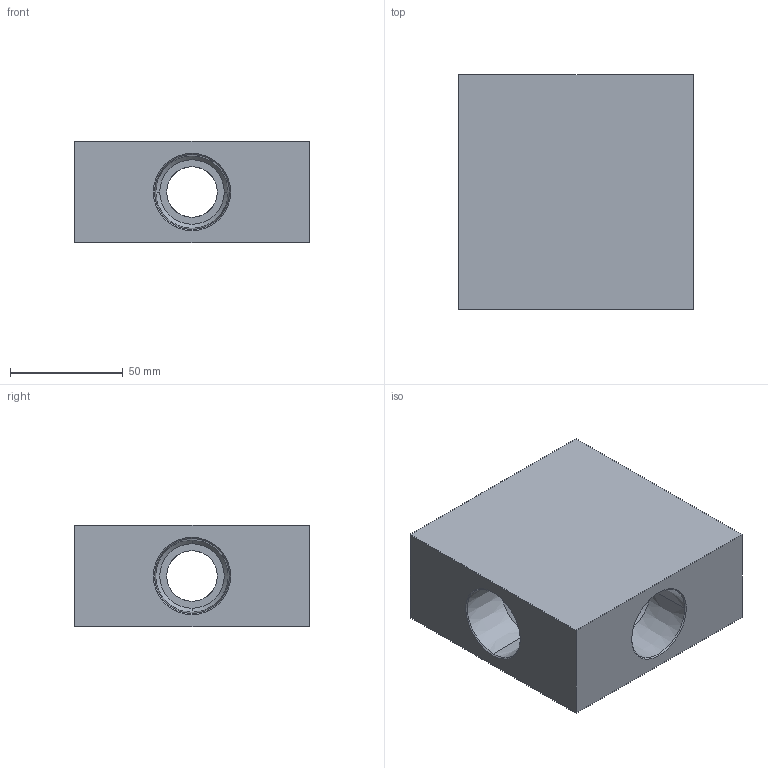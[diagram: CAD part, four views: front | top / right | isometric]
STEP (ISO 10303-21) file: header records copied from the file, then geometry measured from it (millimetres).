
FILE_DESCRIPTION (( 'STEP AP203' ), '1' );
FILE_NAME ('FTNCS16.STEP', '2026-06-26T00:53:56', ( 'USER' ), ( '' ), 'SwSTEP 2.0', 'SolidWorks 2023', '' );
FILE_SCHEMA (( 'CONFIG_CONTROL_DESIGN' ));
Length unit declared in the file: millimetre
Products named in the file (1): FTNCS16
Bounding box: 104 x 104 x 45 mm (x, y, z)
Volume: 370820 mm3; surface area: 53690.7 mm2
Topology: 1 solids, 1 shells, 50 faces, 112 edges, 66 vertices
Faces by surface type: cone 24, cylinder 16, plane 10
Entity records: 1469 total; most frequent: DIRECTION 258, CARTESIAN_POINT 253, ORIENTED_EDGE 224, EDGE_CURVE 112, AXIS2_PLACEMENT_3D 103, VERTEX_POINT 66, EDGE_LOOP 58, LINE 52
